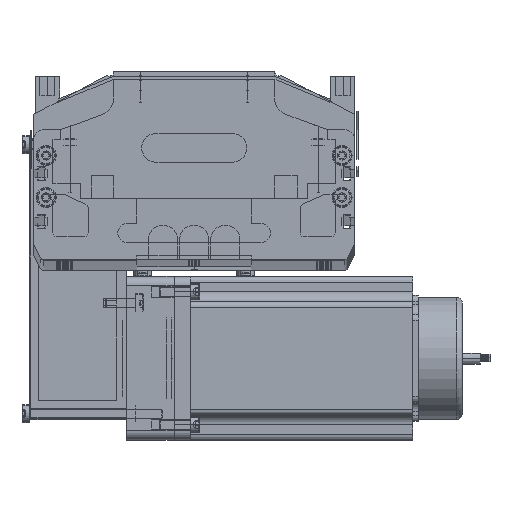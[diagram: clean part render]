
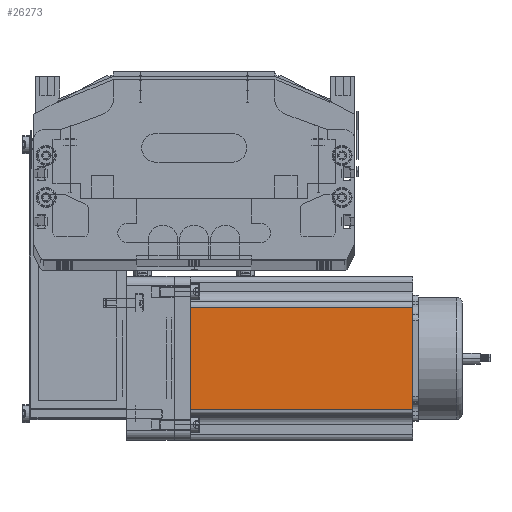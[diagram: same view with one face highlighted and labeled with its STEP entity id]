
A CAD part, top view. The second image highlights one B-rep face of the part: STEP entity #26273.
In plain terms, the highlighted planar face has unit normal (0, 0, 1) as drawn and (0, -1, 0) by its records, which use the part's own axes.
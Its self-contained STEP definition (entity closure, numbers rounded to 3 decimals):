
#21970 = ORIENTED_EDGE ( 'NONE', *, *, #26251, .T. ) ;
#23815 = EDGE_LOOP ( 'NONE', ( #26268, #26265, #25882, #21970 ) ) ;
#24913 = VERTEX_POINT ( 'NONE', #79595 ) ;
#25824 = EDGE_CURVE ( 'NONE', #25844, #24913, #83960, .T. ) ;
#25844 = VERTEX_POINT ( 'NONE', #83918 ) ;
#25882 = ORIENTED_EDGE ( 'NONE', *, *, #26258, .F. ) ;
#26240 = VERTEX_POINT ( 'NONE', #84340 ) ;
#26251 = EDGE_CURVE ( 'NONE', #26261, #25844, #84311, .T. ) ;
#26258 = EDGE_CURVE ( 'NONE', #26261, #26240, #84324, .T. ) ;
#26261 = VERTEX_POINT ( 'NONE', #84302 ) ;
#26265 = ORIENTED_EDGE ( 'NONE', *, *, #26269, .T. ) ;
#26268 = ORIENTED_EDGE ( 'NONE', *, *, #25824, .T. ) ;
#26269 = EDGE_CURVE ( 'NONE', #24913, #26240, #84383, .T. ) ;
#26273 = ADVANCED_FACE ( 'NONE', ( #84379 ), #84293, .F. ) ;
#79595 = CARTESIAN_POINT ( 'NONE',  ( 69.74, 0., 0. ) ) ;
#83918 = CARTESIAN_POINT ( 'NONE',  ( 16.16, 0., 0. ) ) ;
#83931 = DIRECTION ( 'NONE',  ( 1., 0., 0. ) ) ;
#83932 = VECTOR ( 'NONE', #83931, 1000. ) ;
#83958 = CARTESIAN_POINT ( 'NONE',  ( 0., 0., 0. ) ) ;
#83960 = LINE ( 'NONE', #83958, #83932 ) ;
#84284 = DIRECTION ( 'NONE',  ( 1., 0., 0. ) ) ;
#84286 = VECTOR ( 'NONE', #84284, 1000. ) ;
#84287 = CARTESIAN_POINT ( 'NONE',  ( 0., 0., 116.5 ) ) ;
#84293 = PLANE ( 'NONE',  #84397 ) ;
#84295 = DIRECTION ( 'NONE',  ( 0., 0., -1. ) ) ;
#84297 = VECTOR ( 'NONE', #84295, 1000. ) ;
#84302 = CARTESIAN_POINT ( 'NONE',  ( 16.16, 0., 116.5 ) ) ;
#84311 = LINE ( 'NONE', #84332, #84297 ) ;
#84324 = LINE ( 'NONE', #84287, #84286 ) ;
#84332 = CARTESIAN_POINT ( 'NONE',  ( 16.16, 0., 116.5 ) ) ;
#84340 = CARTESIAN_POINT ( 'NONE',  ( 69.74, 0., 116.5 ) ) ;
#84358 = DIRECTION ( 'NONE',  ( 0., 0., 1. ) ) ;
#84360 = DIRECTION ( 'NONE',  ( 0., 1., 0. ) ) ;
#84373 = DIRECTION ( 'NONE',  ( 0., 0., 1. ) ) ;
#84375 = VECTOR ( 'NONE', #84373, 1000. ) ;
#84379 = FACE_OUTER_BOUND ( 'NONE', #23815, .T. ) ;
#84381 = CARTESIAN_POINT ( 'NONE',  ( 69.74, 0., 116.5 ) ) ;
#84383 = LINE ( 'NONE', #84381, #84375 ) ;
#84394 = CARTESIAN_POINT ( 'NONE',  ( 0., 0., 116.5 ) ) ;
#84397 = AXIS2_PLACEMENT_3D ( 'NONE', #84394, #84360, #84358 ) ;
